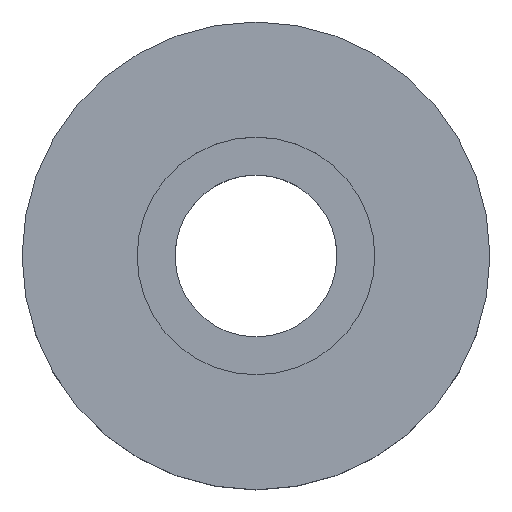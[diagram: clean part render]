
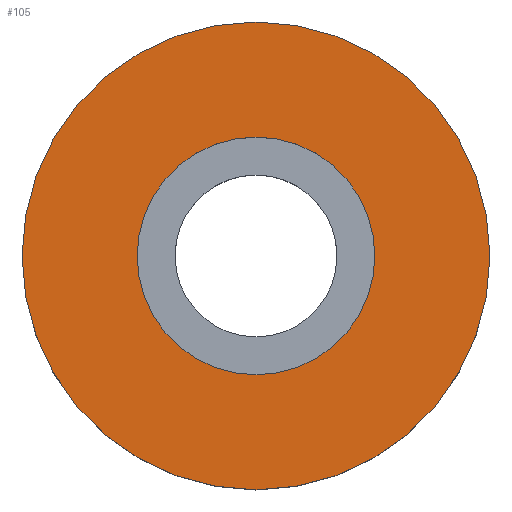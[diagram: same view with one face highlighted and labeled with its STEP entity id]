
A CAD part, top view. The second image highlights one B-rep face of the part: STEP entity #105.
In plain terms, the highlighted planar face has unit normal (0, 0, 1).
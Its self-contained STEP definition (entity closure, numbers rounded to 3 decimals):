
#21 = EDGE_CURVE('',#22,#22,#24,.T.);
#22 = VERTEX_POINT('',#23);
#23 = CARTESIAN_POINT('',(9.25,0.,0.));
#24 = SURFACE_CURVE('',#25,(#30,#42),.PCURVE_S1.);
#25 = CIRCLE('',#26,9.25);
#26 = AXIS2_PLACEMENT_3D('',#27,#28,#29);
#27 = CARTESIAN_POINT('',(0.,0.,0.));
#28 = DIRECTION('',(0.,0.,1.));
#29 = DIRECTION('',(1.,0.,-0.));
#30 = PCURVE('',#31,#36);
#31 = CYLINDRICAL_SURFACE('',#32,9.25);
#32 = AXIS2_PLACEMENT_3D('',#33,#34,#35);
#33 = CARTESIAN_POINT('',(0.,0.,-4.));
#34 = DIRECTION('',(0.,0.,1.));
#35 = DIRECTION('',(1.,0.,-0.));
#36 = DEFINITIONAL_REPRESENTATION('',(#37),#41);
#37 = LINE('',#38,#39);
#38 = CARTESIAN_POINT('',(0.,4.));
#39 = VECTOR('',#40,1.);
#40 = DIRECTION('',(1.,0.));
#41 = ( GEOMETRIC_REPRESENTATION_CONTEXT(2) 
PARAMETRIC_REPRESENTATION_CONTEXT() REPRESENTATION_CONTEXT('2D SPACE',''
  ) );
#42 = PCURVE('',#43,#48);
#43 = PLANE('',#44);
#44 = AXIS2_PLACEMENT_3D('',#45,#46,#47);
#45 = CARTESIAN_POINT('',(0.,0.,0.));
#46 = DIRECTION('',(0.,0.,1.));
#47 = DIRECTION('',(1.,0.,-0.));
#48 = DEFINITIONAL_REPRESENTATION('',(#49),#53);
#49 = CIRCLE('',#50,9.25);
#50 = AXIS2_PLACEMENT_2D('',#51,#52);
#51 = CARTESIAN_POINT('',(0.,0.));
#52 = DIRECTION('',(1.,0.));
#53 = ( GEOMETRIC_REPRESENTATION_CONTEXT(2) 
PARAMETRIC_REPRESENTATION_CONTEXT() REPRESENTATION_CONTEXT('2D SPACE',''
  ) );
#105 = ADVANCED_FACE('',(#106,#109),#43,.T.);
#106 = FACE_BOUND('',#107,.T.);
#107 = EDGE_LOOP('',(#108));
#108 = ORIENTED_EDGE('',*,*,#21,.T.);
#109 = FACE_BOUND('',#110,.T.);
#110 = EDGE_LOOP('',(#111));
#111 = ORIENTED_EDGE('',*,*,#112,.F.);
#112 = EDGE_CURVE('',#113,#113,#115,.T.);
#113 = VERTEX_POINT('',#114);
#114 = CARTESIAN_POINT('',(4.7,0.,0.));
#115 = SURFACE_CURVE('',#116,(#121,#128),.PCURVE_S1.);
#116 = CIRCLE('',#117,4.7);
#117 = AXIS2_PLACEMENT_3D('',#118,#119,#120);
#118 = CARTESIAN_POINT('',(0.,0.,0.));
#119 = DIRECTION('',(0.,0.,1.));
#120 = DIRECTION('',(1.,0.,-0.));
#121 = PCURVE('',#43,#122);
#122 = DEFINITIONAL_REPRESENTATION('',(#123),#127);
#123 = CIRCLE('',#124,4.7);
#124 = AXIS2_PLACEMENT_2D('',#125,#126);
#125 = CARTESIAN_POINT('',(0.,0.));
#126 = DIRECTION('',(1.,0.));
#127 = ( GEOMETRIC_REPRESENTATION_CONTEXT(2) 
PARAMETRIC_REPRESENTATION_CONTEXT() REPRESENTATION_CONTEXT('2D SPACE',''
  ) );
#128 = PCURVE('',#129,#134);
#129 = CYLINDRICAL_SURFACE('',#130,4.7);
#130 = AXIS2_PLACEMENT_3D('',#131,#132,#133);
#131 = CARTESIAN_POINT('',(0.,0.,-1.));
#132 = DIRECTION('',(0.,0.,1.));
#133 = DIRECTION('',(1.,0.,-0.));
#134 = DEFINITIONAL_REPRESENTATION('',(#135),#139);
#135 = LINE('',#136,#137);
#136 = CARTESIAN_POINT('',(0.,1.));
#137 = VECTOR('',#138,1.);
#138 = DIRECTION('',(1.,0.));
#139 = ( GEOMETRIC_REPRESENTATION_CONTEXT(2) 
PARAMETRIC_REPRESENTATION_CONTEXT() REPRESENTATION_CONTEXT('2D SPACE',''
  ) );
